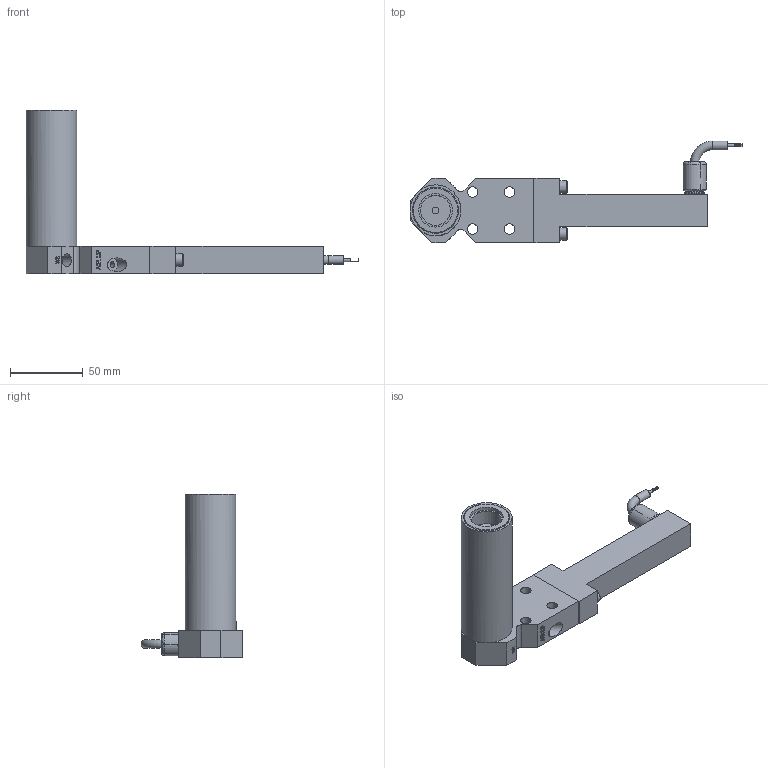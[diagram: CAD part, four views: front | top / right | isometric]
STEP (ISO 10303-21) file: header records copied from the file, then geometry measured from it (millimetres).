
FILE_DESCRIPTION(/* description */ ('ASSY,BODY,VF,LVDT,SXZR3,NHP,RIGHT EXIT'),/* implementation_level */ '2;1');
FILE_NAME(/* name */ 'X:\ASSY,BODY,VF,LVDT,SXZR3,NHP,RIGHT EXIT_0001460201.stp',/* time_stamp */ '2021-04-13T13:07:03-04:00',/* author */ ('Simon.Britton'),/* organization */ (''),/* preprocessor_version */ 'ST-DEVELOPER v17',/* originating_system */ 'Autodesk Inventor 2019',/* authorisation */ '');
FILE_SCHEMA (('AUTOMOTIVE_DESIGN { 1 0 10303 214 3 1 1 }'));
Length unit declared in the file: millimetre
Products named in the file (1): ASSY,VF,LVDT,SXZR,3,TM,S,NHP,N
Bounding box: 227.99 x 69.98 x 112.6 mm (x, y, z)
Volume: 158607 mm3; surface area: 73377.1 mm2
Topology: 2 solids, 7 shells, 492 faces, 1266 edges, 839 vertices
Faces by surface type: plane 313, cylinder 75, bspline 50, cone 44, torus 6, sphere 4
Full cylindrical faces by diameter (mm): 0.5 x4, 2 x1, 3.175 x2, 3.969 x2, 4 x3, 4.064 x2, 4.763 x3, 6 x2, 7.112 x3, 7.144 x4, 7.798 x1, 8 x1, 8.5 x2, 8.731 x2, 9.525 x2, 10 x1, 12.7 x1, 13.716 x1, 14 x2, 15.206 x1, 15.24 x2, 16 x1, 20.637 x2, 23.019 x1, 28.829 x3, 31.496 x4, 31.623 x1, 34.925 x1
Entity records: 16430 total; most frequent: CARTESIAN_POINT 4086, ORIENTED_EDGE 2520, DIRECTION 2256, EDGE_CURVE 1260, VERTEX_POINT 839, LINE 768, VECTOR 768, AXIS2_PLACEMENT_3D 744
